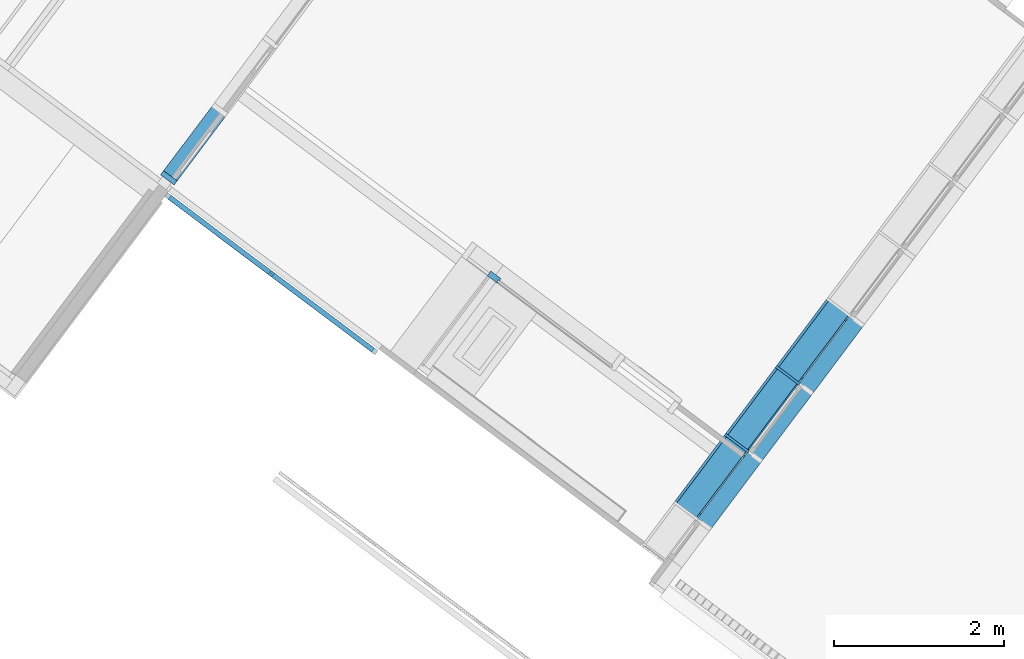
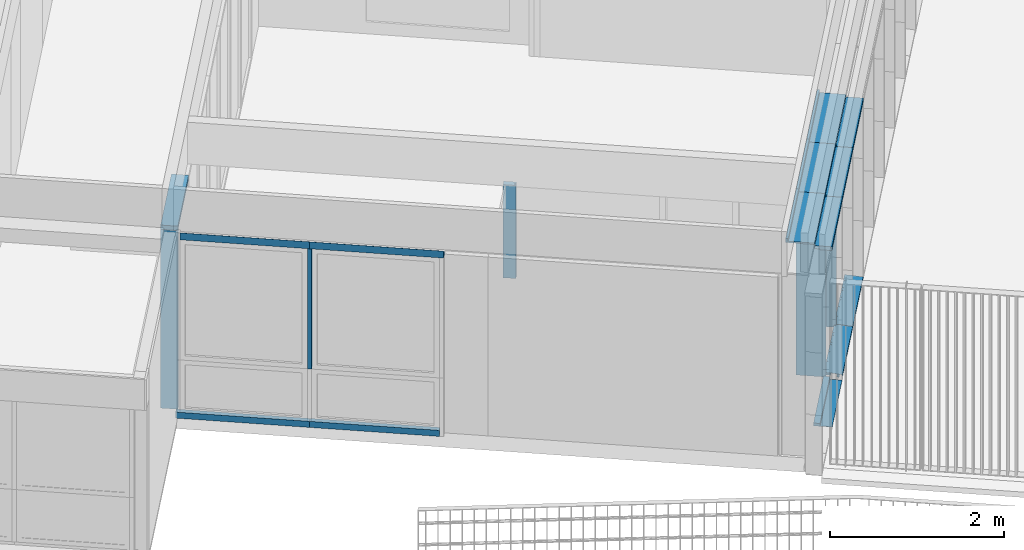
# One storey, part 10 of 243: 19 members, 5 elements without a shape of their own.
"""IFC2X3 building model written with IfcOpenShell, lengths in metres."""

import ifcopenshell
import ifcopenshell.guid

model = None  # the IFC model being written
_history = None  # IfcOwnerHistory: only IFC2X3 demands one
_inside = {}  # id of a spatial element -> (the spatial element, [elements in it])
_under = {}  # id of a project, library or spatial element -> (it, [spatial elements below it])
_declared = {}  # id of a project -> (the project, [libraries it declares])
_typed = {}  # id of a type object -> (the type object, [elements of that type])
_made_of = {}  # id of a material, layer set ... -> (it, [elements and type objects made of it])


def new_model(schema):
    """Start an empty IFC model of exactly this schema.

    Asked for "IFC4X3", IfcOpenShell would pick the latest addendum, in which some entities
    have other attributes; the version numbers below select the first issue.
    IFC2X3 requires an IfcOwnerHistory on every rooted entity: one is made here for all.
    """
    global model, _history
    if schema == "IFC4X3":
        model = ifcopenshell.file(schema_version=(4, 3, 0, 0))
    else:
        model = ifcopenshell.file(schema=schema)
    _inside.clear()
    _under.clear()
    _declared.clear()
    _typed.clear()
    _made_of.clear()
    _history = None
    if model.schema == "IFC2X3":
        org = make("IfcOrganization", Name="unknown")
        user = make(
            "IfcPersonAndOrganization",
            ThePerson=make("IfcPerson", FamilyName="unknown"),
            TheOrganization=org,
        )
        app = make(
            "IfcApplication",
            ApplicationDeveloper=org,
            Version="unknown",
            ApplicationFullName="unknown",
            ApplicationIdentifier="unknown",
        )
        _history = make(
            "IfcOwnerHistory",
            OwningUser=user,
            OwningApplication=app,
            ChangeAction="ADDED",
            CreationDate=0,
        )
    return model


def make(cls, **values):
    """One entity of the class cls with the attributes given. An attribute that is None is left unset."""
    return model.create_entity(
        cls, **{name: value for name, value in values.items() if value is not None}
    )


def entity(cls, *values):
    """Any entity or typed value of the class cls, its attributes in the order of the schema. None: left unset."""
    e = model.create_entity(cls)
    for i, value in enumerate(values):
        if value is not None:
            e[i] = value
    return e


def rooted(cls, **values):
    """An entity with a GlobalId (a new one), such as an element, a storey or a relation."""
    return make(cls, GlobalId=ifcopenshell.guid.new(), OwnerHistory=_history, **values)


def si_unit(unit_type, name, prefix=None):
    """IfcSIUnit, for example si_unit("LENGTHUNIT", "METRE", prefix="MILLI")."""
    return make("IfcSIUnit", UnitType=unit_type, Prefix=prefix, Name=name)


def converted_unit(unit_type, name, factor, base, dimensions=None, offset=None):
    """IfcConversionBasedUnit, such as the inch: factor (a typed value) times the base unit."""
    return make(
        "IfcConversionBasedUnit"
        if offset is None
        else "IfcConversionBasedUnitWithOffset",
        ConversionOffset=offset,
        Dimensions=None
        if dimensions is None
        else entity("IfcDimensionalExponents", *dimensions),
        UnitType=unit_type,
        Name=name,
        ConversionFactor=make(
            "IfcMeasureWithUnit", ValueComponent=factor, UnitComponent=base
        ),
    )


def derived_unit(unit_type, elements):
    """IfcDerivedUnit: a product of units, each with its exponent."""
    return make(
        "IfcDerivedUnit",
        Elements=[
            make("IfcDerivedUnitElement", Unit=unit, Exponent=power)
            for unit, power in elements
        ],
        UnitType=unit_type,
    )


def assignment(units):
    """IfcUnitAssignment: the units of a project."""
    return None if units is None else make("IfcUnitAssignment", Units=units)


def point(xyz):
    """IfcCartesianPoint."""
    return None if xyz is None else make("IfcCartesianPoint", Coordinates=xyz)


def direction(xyz):
    """IfcDirection."""
    return None if xyz is None else make("IfcDirection", DirectionRatios=xyz)


def frame(location, z_axis=None, x_axis=None):
    """IfcAxis2Placement3D, a coordinate frame: its origin and axes. An axis left out is left unset."""
    return make(
        "IfcAxis2Placement3D",
        Location=point(location),
        Axis=direction(z_axis),
        RefDirection=direction(x_axis),
    )


def frame_2d(location, x_axis=None):
    """IfcAxis2Placement2D, a coordinate frame in the plane: its origin and x axis."""
    return make(
        "IfcAxis2Placement2D", Location=point(location), RefDirection=direction(x_axis)
    )


def origin():
    """The frame at (0, 0, 0) with its axes left unset."""
    return frame((0.0, 0.0, 0.0))


def origin_2d_with_axis():
    """The frame at (0, 0) in the plane with the x axis (1, 0) written out."""
    return frame_2d((0.0, 0.0), x_axis=(1.0, 0.0))


def place(relative_to, where):
    """IfcLocalPlacement: puts the frame where relative to a parent placement (None: the world)."""
    return make(
        "IfcLocalPlacement", PlacementRelTo=relative_to, RelativePlacement=where
    )


def context(
    kind, dimensions, precision=None, world=None, true_north=None, identifier=None
):
    """IfcGeometricRepresentationContext, for example the 3D "Model" context."""
    return make(
        "IfcGeometricRepresentationContext",
        ContextIdentifier=identifier,
        ContextType=kind,
        CoordinateSpaceDimension=dimensions,
        Precision=precision,
        WorldCoordinateSystem=world,
        TrueNorth=true_north,
    )


def subcontext(parent, identifier, kind, view, scale=None):
    """IfcGeometricRepresentationSubContext, for example "Body" below "Model"."""
    return make(
        "IfcGeometricRepresentationSubContext",
        ContextIdentifier=identifier,
        ContextType=kind,
        ParentContext=parent,
        TargetScale=scale,
        TargetView=view,
    )


def project(units=None, contexts=None):
    """IfcProject with its units and contexts."""
    return rooted(
        "IfcProject",
        Name="project",
        RepresentationContexts=contexts,
        UnitsInContext=assignment(units),
    )


def spatial(cls, under=None, at=None, **own):
    """A site, building, storey or space (cls), placed at a placement, below another one or the project."""
    s = rooted(cls, ObjectPlacement=at, **own)
    if under is not None:
        _under.setdefault(under.id(), (under, []))[1].append(s)
    return s


def polyline(points):
    """IfcPolyline through the points."""
    return make("IfcPolyline", Points=[point(p) for p in points])


def circle_curve(where, radius):
    """IfcCircle in the frame where."""
    return make("IfcCircle", Position=where, Radius=radius)


def parameter(value):
    """IfcParameterValue: where a trimmed curve begins or ends, as a parameter of its basis curve."""
    return model.create_entity("IfcParameterValue", value)


def trimmed(basis, trim1, trim2, sense, master):
    """IfcTrimmedCurve: the piece of a basis curve between two trims."""
    return make(
        "IfcTrimmedCurve",
        BasisCurve=basis,
        Trim1=trim1,
        Trim2=trim2,
        SenseAgreement=sense,
        MasterRepresentation=master,
    )


def segment(curve, same_sense, transition):
    """IfcCompositeCurveSegment."""
    return make(
        "IfcCompositeCurveSegment",
        Transition=transition,
        SameSense=same_sense,
        ParentCurve=curve,
    )


def composite_curve(segments, self_intersect=None):
    """IfcCompositeCurve: segments joined end to end."""
    return make("IfcCompositeCurve", Segments=segments, SelfIntersect=self_intersect)


def profile(cls, at=None, kind="AREA", **sizes):
    """A parametric profile (cls). Its sizes go by their IFC names, for example OverallWidth=200.0."""
    return make(cls, ProfileType=kind, Position=at, **sizes)


def rectangle(**sizes):
    """IfcRectangleProfileDef."""
    return profile("IfcRectangleProfileDef", **sizes)


def outline(outer, holes=None, kind="AREA"):
    """IfcArbitraryClosedProfileDef: a profile drawn as a closed curve; with holes, ...WithVoids."""
    if holes is None:
        return make("IfcArbitraryClosedProfileDef", ProfileType=kind, OuterCurve=outer)
    return make(
        "IfcArbitraryProfileDefWithVoids",
        ProfileType=kind,
        OuterCurve=outer,
        InnerCurves=holes,
    )


def extrude(swept, where, along, depth):
    """IfcExtrudedAreaSolid: the profile swept, set in the frame where, extruded along a direction by depth."""
    return make(
        "IfcExtrudedAreaSolid",
        SweptArea=swept,
        Position=where,
        ExtrudedDirection=direction(along),
        Depth=depth,
    )


def shape(context_of_items, identifier, shape_type, items):
    """IfcShapeRepresentation: the items that make up one representation, for example the "Body"."""
    return make(
        "IfcShapeRepresentation",
        ContextOfItems=context_of_items,
        RepresentationIdentifier=identifier,
        RepresentationType=shape_type,
        Items=items,
    )


def source(mapping_origin, context_of_items, identifier, shape_type, items):
    """IfcRepresentationMap: a shape defined once, which mapped items show again and again."""
    return make(
        "IfcRepresentationMap",
        MappingOrigin=mapping_origin,
        MappedRepresentation=shape(context_of_items, identifier, shape_type, items),
    )


def transform(
    local_origin,
    x_axis=None,
    y_axis=None,
    z_axis=None,
    scale=None,
    scale2=None,
    scale3=None,
    uniform=True,
):
    """IfcCartesianTransformationOperator3D, or its non-uniform kind. x_axis, y_axis, z_axis: its Axis1, 2, 3."""
    if uniform:
        return make(
            "IfcCartesianTransformationOperator3D",
            Axis1=direction(x_axis),
            Axis2=direction(y_axis),
            LocalOrigin=point(local_origin),
            Scale=scale,
            Axis3=direction(z_axis),
        )
    return make(
        "IfcCartesianTransformationOperator3DnonUniform",
        Axis1=direction(x_axis),
        Axis2=direction(y_axis),
        LocalOrigin=point(local_origin),
        Scale=scale,
        Axis3=direction(z_axis),
        Scale2=scale2,
        Scale3=scale3,
    )


def mapped(mapping_source, mapping_target):
    """IfcMappedItem: shows the shape of a source again, moved by a transform."""
    return make(
        "IfcMappedItem", MappingSource=mapping_source, MappingTarget=mapping_target
    )


def material(Name=None, Category=None):
    """IfcMaterial."""
    return make("IfcMaterial", Name=Name, Category=Category)


def made_of(thing, what):
    """Note that an element or type object is made of a material, layer set ...; save() writes the relation."""
    if what is not None:
        _made_of.setdefault(what.id(), (what, []))[1].append(thing)
    return thing


def type_object(cls, material=None, **own):
    """A type object (cls), such as IfcWallType, which elements share."""
    return made_of(rooted(cls, **own), material)


def type_shapes(of_type, sources):
    """Give a type object the sources (RepresentationMaps) that its elements show as mapped items."""
    of_type.RepresentationMaps = sources


def element(
    cls,
    number,
    at=None,
    inside=None,
    cuts=None,
    type_object=None,
    material=None,
    context=None,
    identifier="Body",
    shape_type=None,
    held_by="IfcProductDefinitionShape",
    body=None,
    shapes=None,
    **own,
):
    """One element of the class cls, such as IfcWall. Its Tag is "e" and its number.

    at: its placement. inside: the storey or other place that contains it. cuts: it is an
    opening in that element (IfcRelVoidsElement). A single representation is given by context,
    identifier, shape_type and body (its items); several are given by shapes. held_by: the class
    of the entity that holds the representations. save() writes the other relations.
    """
    e = rooted(cls, Tag="e%d" % number, ObjectPlacement=at, **own)
    if body is not None:
        shapes = [shape(context, identifier, shape_type, body)]
    if shapes is not None:
        e.Representation = make(held_by, Representations=shapes)
    if inside is not None:
        _inside.setdefault(inside.id(), (inside, []))[1].append(e)
    if cuts is not None:
        rooted(
            "IfcRelVoidsElement", RelatingBuildingElement=cuts, RelatedOpeningElement=e
        )
    if type_object is not None:
        _typed.setdefault(type_object.id(), (type_object, []))[1].append(e)
    return made_of(e, material)


def aggregate(whole, parts):
    """IfcRelAggregates: a whole, such as a stair, and the parts it consists of."""
    return rooted("IfcRelAggregates", RelatingObject=whole, RelatedObjects=parts)


def save(model, path):
    """Write the relations noted so far, then the file.

    IfcRelAggregates (storeys below a building ...), IfcRelContainedInSpatialStructure (elements
    in a storey), IfcRelDefinesByType, IfcRelAssociatesMaterial and IfcRelDeclares: one each for
    every whole, place, type object, material and project.
    """
    for whole, parts in _under.values():
        aggregate(whole, parts)
    for where, things in _inside.values():
        rooted(
            "IfcRelContainedInSpatialStructure",
            RelatedElements=things,
            RelatingStructure=where,
        )
    for kind, things in _typed.values():
        rooted("IfcRelDefinesByType", RelatedObjects=things, RelatingType=kind)
    for what, things in _made_of.values():
        rooted("IfcRelAssociatesMaterial", RelatedObjects=things, RelatingMaterial=what)
    for by, libraries in _declared.values():
        rooted("IfcRelDeclares", RelatingContext=by, RelatedDefinitions=libraries)
    model.write(path)


model = new_model("IFC2X3")

# Units and contexts
model_context = context("Model", 3, precision=1e-05, world=origin(), true_north=direction((6.123031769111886e-17, 1.0)))
body_context = subcontext(model_context, "Body", "Model", "MODEL_VIEW")
ifc_project = project(units=[si_unit("LENGTHUNIT", "METRE"), si_unit("AREAUNIT", "SQUARE_METRE"), si_unit("VOLUMEUNIT", "CUBIC_METRE"), converted_unit("PLANEANGLEUNIT", "DEGREE", entity("IfcRatioMeasure", 0.017453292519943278), si_unit("PLANEANGLEUNIT", "RADIAN"), dimensions=[0, 0, 0, 0, 0, 0, 0]), si_unit("MASSUNIT", "GRAM", prefix="KILO"), derived_unit("MASSDENSITYUNIT", [(si_unit("MASSUNIT", "GRAM", prefix="KILO"), 1), (si_unit("LENGTHUNIT", "METRE"), -3)]), derived_unit("IONCONCENTRATIONUNIT", [(si_unit("MASSUNIT", "GRAM", prefix="KILO"), 1), (si_unit("LENGTHUNIT", "METRE"), -3)]), derived_unit("MOMENTOFINERTIAUNIT", [(si_unit("LENGTHUNIT", "METRE"), 4)]), si_unit("TIMEUNIT", "SECOND"), si_unit("FREQUENCYUNIT", "HERTZ"), si_unit("THERMODYNAMICTEMPERATUREUNIT", "DEGREE_CELSIUS"), derived_unit("THERMALTRANSMITTANCEUNIT", [(si_unit("MASSUNIT", "GRAM", prefix="KILO"), 1), (si_unit("THERMODYNAMICTEMPERATUREUNIT", "KELVIN"), -1), (si_unit("TIMEUNIT", "SECOND"), -3)]), derived_unit("THERMALCONDUCTANCEUNIT", [(si_unit("MASSUNIT", "GRAM", prefix="KILO"), 1), (si_unit("THERMODYNAMICTEMPERATUREUNIT", "KELVIN"), -1), (si_unit("TIMEUNIT", "SECOND"), -3), (si_unit("LENGTHUNIT", "METRE"), 1)]), derived_unit("VOLUMETRICFLOWRATEUNIT", [(si_unit("LENGTHUNIT", "METRE"), 3), (si_unit("TIMEUNIT", "SECOND"), -1)]), derived_unit("MASSFLOWRATEUNIT", [(si_unit("MASSUNIT", "GRAM", prefix="KILO"), 1), (si_unit("TIMEUNIT", "SECOND"), -1)]), derived_unit("ROTATIONALFREQUENCYUNIT", [(si_unit("TIMEUNIT", "SECOND"), -1)]), si_unit("ELECTRICCURRENTUNIT", "AMPERE"), si_unit("ELECTRICVOLTAGEUNIT", "VOLT"), si_unit("POWERUNIT", "WATT"), si_unit("FORCEUNIT", "NEWTON", prefix="KILO"), si_unit("ILLUMINANCEUNIT", "LUX"), si_unit("LUMINOUSFLUXUNIT", "LUMEN"), si_unit("LUMINOUSINTENSITYUNIT", "CANDELA"), derived_unit("USERDEFINED", [(si_unit("MASSUNIT", "GRAM", prefix="KILO"), -1), (si_unit("LENGTHUNIT", "METRE"), -2), (si_unit("TIMEUNIT", "SECOND"), 3), (si_unit("LUMINOUSFLUXUNIT", "LUMEN"), 1)]), derived_unit("USERDEFINED", [(si_unit("MASSUNIT", "GRAM", prefix="KILO"), 1), (si_unit("TIMEUNIT", "SECOND"), -3), (si_unit("LENGTHUNIT", "METRE"), 3), (si_unit("ELECTRICCURRENTUNIT", "AMPERE"), -2)]), derived_unit("SOUNDPOWERUNIT", [(si_unit("MASSUNIT", "GRAM", prefix="KILO"), 1), (si_unit("TIMEUNIT", "SECOND"), -3), (si_unit("LENGTHUNIT", "METRE"), 2)]), derived_unit("SOUNDPRESSUREUNIT", [(si_unit("MASSUNIT", "GRAM", prefix="KILO"), 1), (si_unit("LENGTHUNIT", "METRE"), -1), (si_unit("TIMEUNIT", "SECOND"), -2)]), derived_unit("LINEARVELOCITYUNIT", [(si_unit("LENGTHUNIT", "METRE"), 1), (si_unit("TIMEUNIT", "SECOND"), -1)]), si_unit("PRESSUREUNIT", "PASCAL"), derived_unit("USERDEFINED", [(si_unit("MASSUNIT", "GRAM", prefix="KILO"), 1), (si_unit("LENGTHUNIT", "METRE"), -2), (si_unit("TIMEUNIT", "SECOND"), -2)]), derived_unit("LINEARFORCEUNIT", [(si_unit("MASSUNIT", "GRAM", prefix="KILO"), 1), (si_unit("TIMEUNIT", "SECOND"), -2)]), derived_unit("PLANARFORCEUNIT", [(si_unit("MASSUNIT", "GRAM", prefix="KILO"), 1), (si_unit("LENGTHUNIT", "METRE"), -1), (si_unit("TIMEUNIT", "SECOND"), -2)]), derived_unit("SPECIFICHEATCAPACITYUNIT", [(si_unit("THERMODYNAMICTEMPERATUREUNIT", "KELVIN"), -1), (si_unit("LENGTHUNIT", "METRE"), 2), (si_unit("TIMEUNIT", "SECOND"), -2)]), derived_unit("HEATINGVALUEUNIT", [(si_unit("LENGTHUNIT", "METRE"), 2), (si_unit("TIMEUNIT", "SECOND"), -2)]), derived_unit("VAPORPERMEABILITYUNIT", [(si_unit("LENGTHUNIT", "METRE"), -1), (si_unit("TIMEUNIT", "SECOND"), 1)]), derived_unit("DYNAMICVISCOSITYUNIT", [(si_unit("MASSUNIT", "GRAM", prefix="KILO"), 1), (si_unit("TIMEUNIT", "SECOND"), -1), (si_unit("LENGTHUNIT", "METRE"), -1)]), derived_unit("THERMALEXPANSIONCOEFFICIENTUNIT", [(si_unit("THERMODYNAMICTEMPERATUREUNIT", "KELVIN"), -1)]), derived_unit("MODULUSOFELASTICITYUNIT", [(si_unit("MASSUNIT", "GRAM", prefix="KILO"), 1), (si_unit("LENGTHUNIT", "METRE"), -1), (si_unit("TIMEUNIT", "SECOND"), -2)]), derived_unit("ISOTHERMALMOISTURECAPACITYUNIT", [(si_unit("LENGTHUNIT", "METRE"), 3), (si_unit("MASSUNIT", "GRAM", prefix="KILO"), -1)]), derived_unit("MOISTUREDIFFUSIVITYUNIT", [(si_unit("TIMEUNIT", "SECOND"), -1), (si_unit("LENGTHUNIT", "METRE"), 2)])], contexts=[model_context])

# Site, building, storey
site_placement = place(None, frame((0.0, 0.0, 235.0), z_axis=(0.0, 0.0, 1.0), x_axis=(-0.7996477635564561, 0.6004693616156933, 0.0)))
site = spatial("IfcSite", under=ifc_project, at=site_placement, Name="Default", CompositionType="ELEMENT")
building_placement = place(site_placement, origin())
building = spatial("IfcBuilding", under=site, at=building_placement, CompositionType="ELEMENT")
storey_placement = place(building_placement, origin())
storey = spatial("IfcBuildingStorey", under=building, at=storey_placement, Name="P0- Escola", CompositionType="ELEMENT", Elevation=0.0)

# Curtain wall, members
curtain_wall_type_1 = type_object("IfcCurtainWallType", Name="Muro cortina:MC- INT- a3", PredefinedType="NOTDEFINED")
curtain_wall_1_placement = place(storey_placement, origin())
curtain_wall_1 = element("IfcCurtainWall", 1, at=curtain_wall_1_placement, inside=storey, type_object=curtain_wall_type_1, Name="Muro cortina:MC- INT- a3", ObjectType="Muro cortina:MC- INT- a3")
ifc_material_1 = material(Name="_Fusta massisa- T1")
member_type_1 = type_object("IfcMemberType", Name="Montante rectangular:MC- Fusta- 20x6 cm- Neutre", PredefinedType="MULLION", material=ifc_material_1)
shared_shape_1 = source(origin(), body_context, "Body", "SweptSolid", [
    extrude(rectangle(XDim=0.2, YDim=0.06, at=frame_2d((-5.551115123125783e-17, 0.0), x_axis=(1.0, 0.0))), frame((-0.03, 0.060000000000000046, -2.5050000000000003), z_axis=(0.0, 0.0, 1.0), x_axis=(0.0, -1.0, 0.0)), (0.0, 0.0, 1.0), 2.5050000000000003),
])
type_shapes(member_type_1, [shared_shape_1])
member_1_placement = place(curtain_wall_1_placement, frame((13.279147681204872, -18.440191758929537, 0.0), z_axis=(0.0, 0.0, -1.0), x_axis=(0.0, 1.0, 0.0)))
member_1 = element("IfcMember", 2, at=member_1_placement, type_object=member_type_1, material=ifc_material_1, Name="Montante rectangular:MC- Fusta- 20x6 cm- Neutre", ObjectType="Montante rectangular:MC- Fusta- 20x6 cm- Neutre", context=body_context, shape_type="MappedRepresentation", body=[
    mapped(shared_shape_1, transform((0.0, 0.0, 0.0), scale=1.0)),
])
member_type_2 = type_object("IfcMemberType", Name="Montante rectangular:MC- Fusta- 20x6 cm- Neutre", PredefinedType="MULLION", material=ifc_material_1)
shared_shape_2 = source(origin(), body_context, "Body", "SweptSolid", [
    extrude(rectangle(XDim=0.20000000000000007, YDim=0.06, at=frame_2d((-5.551115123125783e-17, 0.0), x_axis=(1.0, 0.0))), frame((-0.03, 0.06000000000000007, -1.030000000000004), z_axis=(0.0, 0.0, 1.0), x_axis=(0.0, -1.0, 0.0)), (0.0, 0.0, 1.0), 1.030000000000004),
])
type_shapes(member_type_2, [shared_shape_2])
member_2_placement = place(curtain_wall_1_placement, frame((13.279147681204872, -18.440191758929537, 2.565), z_axis=(0.0, 1.0, 0.0), x_axis=(0.0, 0.0, 1.0)))
member_2 = element("IfcMember", 3, at=member_2_placement, type_object=member_type_2, material=ifc_material_1, Name="Montante rectangular:MC- Fusta- 20x6 cm- Neutre", ObjectType="Montante rectangular:MC- Fusta- 20x6 cm- Neutre", context=body_context, shape_type="MappedRepresentation", body=[
    mapped(shared_shape_2, transform((0.0, 0.0, 0.0), scale=1.0)),
])
aggregate(curtain_wall_1, [member_1, member_2])

# Curtain wall, member
curtain_wall_type_2 = type_object("IfcCurtainWallType", Name="Muro cortina:MC- INT- k1", PredefinedType="NOTDEFINED")
curtain_wall_2_placement = place(storey_placement, origin())
curtain_wall_2 = element("IfcCurtainWall", 4, at=curtain_wall_2_placement, inside=storey, type_object=curtain_wall_type_2, Name="Muro cortina:MC- INT- k1", ObjectType="Muro cortina:MC- INT- k1")
member_type_3 = type_object("IfcMemberType", Name="Montante rectangular:PerfilBany-Dreta", PredefinedType="MULLION", material=ifc_material_1)
shared_shape_3 = source(origin(), body_context, "Body", "SweptSolid", [
    extrude(outline(polyline([(-0.03050000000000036, -0.1075), (0.0394999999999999, -0.1075), (0.0394999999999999, 0.04250000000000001), (0.0055000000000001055, 0.04250000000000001), (0.0055000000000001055, 0.022500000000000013), (-0.014499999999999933, 0.022500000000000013), (-0.014499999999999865, 0.04249999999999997), (-0.030499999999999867, 0.04249999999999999), (-0.03050000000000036, -0.1075)])), frame((0.03250000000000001, -0.0045000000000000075, -1.304999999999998), z_axis=(0.0, 0.0, 1.0), x_axis=(0.0, -1.0, 0.0)), (0.0, 0.0, 1.0), 1.304999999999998),
])
type_shapes(member_type_3, [shared_shape_3])
member_3_placement = place(curtain_wall_2_placement, frame((9.570147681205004, -19.82719175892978, 1.2000000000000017), z_axis=(0.0, 0.0, -1.0), x_axis=(-1.0, 0.0, 0.0)))
member_3 = element("IfcMember", 5, at=member_3_placement, type_object=member_type_3, material=ifc_material_1, Name="Montante rectangular:PerfilBany-Dreta", ObjectType="Montante rectangular:PerfilBany-Dreta", context=body_context, shape_type="MappedRepresentation", body=[
    mapped(shared_shape_3, transform((0.0, 0.0, 0.0), scale=1.0)),
])
aggregate(curtain_wall_2, [member_3])

# Curtain wall, members
curtain_wall_type_3 = type_object("IfcCurtainWallType", Name="Muro cortina:MC- EXT- MC2", PredefinedType="NOTDEFINED")
curtain_wall_3_placement = place(storey_placement, origin())
curtain_wall_3 = element("IfcCurtainWall", 6, at=curtain_wall_3_placement, inside=storey, type_object=curtain_wall_type_3, Name="Muro cortina:MC- EXT- MC2", ObjectType="Muro cortina:MC- EXT- MC2")
ifc_material_2 = material(Name="_Alumini- T1- Perfil")
member_type_4 = type_object("IfcMemberType", Name="Montante rectangular:MC- Alu- 140x52,5 cm- Fa patis- Superior", PredefinedType="MULLION", material=ifc_material_2)
shared_shape_4 = source(origin(), body_context, "Body", "SweptSolid", [
    extrude(outline(polyline([(-0.11366666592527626, -0.021249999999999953), (0.026333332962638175, -0.021249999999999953), (0.026333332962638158, -0.010000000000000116), (0.0873333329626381, -0.010000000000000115), (0.0873333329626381, 0.03125000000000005), (-0.11366666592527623, 0.031250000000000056), (-0.11366666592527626, -0.021249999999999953)])), frame((-0.031250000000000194, 0.0273333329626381, -1.0), z_axis=(0.0, 0.0, 1.0), x_axis=(0.0, -1.0, 0.0)), (0.0, 0.0, 1.0), 1.0000000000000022),
])
type_shapes(member_type_4, [shared_shape_4])
member_4_placement = place(curtain_wall_3_placement, frame((5.8851476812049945, -19.9901917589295, 2.525), z_axis=(0.0, -1.0, 0.0), x_axis=(0.0, 0.0, 1.0)))
member_4 = element("IfcMember", 7, at=member_4_placement, type_object=member_type_4, material=ifc_material_2, Name="Montante rectangular:MC- Alu- 140x52,5 cm- Fa patis- Superior", ObjectType="Montante rectangular:MC- Alu- 140x52,5 cm- Fa patis- Superior", context=body_context, shape_type="MappedRepresentation", body=[
    mapped(shared_shape_4, transform((0.0, 0.0, 0.0), scale=1.0)),
])
member_5_placement = place(curtain_wall_3_placement, frame((5.885147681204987, -20.99019175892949, 2.525), z_axis=(0.0, -1.0, 0.0), x_axis=(0.0, 0.0, 1.0)))
member_5 = element("IfcMember", 8, at=member_5_placement, type_object=member_type_4, material=ifc_material_2, Name="Montante rectangular:MC- Alu- 140x52,5 cm- Fa patis- Superior", ObjectType="Montante rectangular:MC- Alu- 140x52,5 cm- Fa patis- Superior", context=body_context, shape_type="MappedRepresentation", body=[
    mapped(shared_shape_4, transform((0.0, 0.0, 0.0), scale=1.0)),
])
member_6_placement = place(curtain_wall_3_placement, frame((5.885147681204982, -21.9901917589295, 2.525), z_axis=(0.0, -1.0, 0.0), x_axis=(0.0, 0.0, 1.0)))
member_6 = element("IfcMember", 9, at=member_6_placement, type_object=member_type_4, material=ifc_material_2, Name="Montante rectangular:MC- Alu- 140x52,5 cm- Fa patis- Superior", ObjectType="Montante rectangular:MC- Alu- 140x52,5 cm- Fa patis- Superior", context=body_context, shape_type="MappedRepresentation", body=[
    mapped(shared_shape_4, transform((0.0, 0.0, 0.0), scale=1.0)),
])
member_type_5 = type_object("IfcMemberType", Name="Montante rectangular:MC- Alu- 140x52,5 cm- Fa patis- inferior porta reixa", PredefinedType="MULLION", material=ifc_material_2)
shared_shape_5 = source(origin(), body_context, "Body", "SweptSolid", [
    extrude(outline(polyline([(0.021233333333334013, -0.026000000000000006), (0.097533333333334, -0.026000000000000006), (0.097533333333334, 0.013999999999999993), (-0.118766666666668, 0.013999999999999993), (-0.118766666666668, 0.012000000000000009), (0.02123333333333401, 0.012000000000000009), (0.021233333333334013, -0.026000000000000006)])), frame((-0.01400000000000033, 0.021233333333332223, -0.9474999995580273), z_axis=(0.0, 0.0, 1.0), x_axis=(0.0, -1.0, 0.0)), (0.0, 0.0, 1.0), 0.9474999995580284),
])
type_shapes(member_type_5, [shared_shape_5])
member_7_placement = place(curtain_wall_3_placement, frame((5.885147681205, -19.01644175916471, -0.02), z_axis=(0.0, 1.0, 0.0), x_axis=(0.0, 0.0, -1.0)))
member_7 = element("IfcMember", 10, at=member_7_placement, type_object=member_type_5, material=ifc_material_2, Name="Montante rectangular:MC- Alu- 140x52,5 cm- Fa patis- inferior porta reixa", ObjectType="Montante rectangular:MC- Alu- 140x52,5 cm- Fa patis- inferior porta reixa", context=body_context, shape_type="MappedRepresentation", body=[
    mapped(shared_shape_5, transform((0.0, 0.0, 0.0), scale=1.0)),
])
member_type_6 = type_object("IfcMemberType", Name="Montante rectangular:MC- Alu- 140x52,5 cm- Fa patis- inferior", PredefinedType="MULLION", material=ifc_material_2)
shared_shape_6 = source(origin(), body_context, "Body", "SweptSolid", [
    extrude(outline(composite_curve([segment(polyline([(0.1278672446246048, -0.02586710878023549), (0.14416724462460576, -0.025867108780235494)]), True, "CONTINUOUS"), segment(polyline([(0.14416724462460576, -0.025867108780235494), (0.1441672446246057, 0.009132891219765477)]), True, "CONTINUOUS"), segment(polyline([(0.1441672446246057, 0.009132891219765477), (0.06786724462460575, 0.009132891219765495)]), True, "CONTINUOUS"), segment(polyline([(0.06786724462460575, 0.009132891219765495), (0.06786724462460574, -0.021159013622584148)]), True, "CONTINUOUS"), segment(polyline([(0.06786724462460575, -0.02115901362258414), (-0.030132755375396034, -0.012332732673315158)]), True, "CONTINUOUS"), segment(polyline([(-0.03013275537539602, -0.012332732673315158), (-0.030132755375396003, 0.027132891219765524)]), True, "CONTINUOUS"), segment(polyline([(-0.030132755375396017, 0.02713289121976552), (-0.0021327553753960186, 0.02713289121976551)]), True, "CONTINUOUS"), segment(polyline([(-0.0021327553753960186, 0.027132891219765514), (-0.0021327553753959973, 0.029132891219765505)]), True, "CONTINUOUS"), segment(polyline([(-0.0021327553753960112, 0.029132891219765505), (-0.032132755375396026, 0.029132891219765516)]), True, "CONTINUOUS"), segment(polyline([(-0.032132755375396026, 0.029132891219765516), (-0.03213275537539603, -0.012152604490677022)]), True, "CONTINUOUS"), segment(polyline([(-0.03213275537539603, -0.012152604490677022), (-0.0701327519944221, -0.008730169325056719)]), True, "CONTINUOUS"), segment(polyline([(-0.0701327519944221, -0.008730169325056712), (-0.0701327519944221, 0.005766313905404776)]), True, "CONTINUOUS"), segment(trimmed(circle_curve(frame_2d((-0.0696327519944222, 0.0057663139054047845), x_axis=(-1.0, 0.0)), 0.0004999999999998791), [parameter(269.999999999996)], [parameter(0.0)], True, "PARAMETER"), False, "CONTINUOUS"), segment(polyline([(-0.0696327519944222, 0.00626631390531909), (-0.06213275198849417, 0.006266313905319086)]), True, "CONTINUOUS"), segment(polyline([(-0.06213275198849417, 0.006266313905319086), (-0.06213275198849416, 0.008266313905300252)]), True, "CONTINUOUS"), segment(polyline([(-0.06213275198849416, 0.008266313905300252), (-0.07013275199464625, 0.008266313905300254)]), True, "CONTINUOUS"), segment(trimmed(circle_curve(frame_2d((-0.07013275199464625, 0.006266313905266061), x_axis=(0.0, 1.0)), 0.0020000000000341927), [parameter(0.0)], [parameter(90.00000002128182)], True, "PARAMETER"), True, "CONTINUOUS"), segment(polyline([(-0.07213275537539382, 0.006266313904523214), (-0.07213275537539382, -0.008730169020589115)]), True, "CONTINUOUS"), segment(trimmed(circle_curve(frame_2d((-0.07013275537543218, -0.008730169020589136), x_axis=(-1.0, 0.0)), 0.0019999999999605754), [parameter(0.0)], [parameter(84.85359280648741)], True, "PARAMETER"), True, "CONTINUOUS"), segment(polyline([(-0.07031215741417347, -0.01072210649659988), (0.06786724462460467, -0.023167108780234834)]), True, "CONTINUOUS"), segment(polyline([(0.06786724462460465, -0.023167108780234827), (0.12786724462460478, -0.023167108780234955)]), True, "CONTINUOUS"), segment(polyline([(0.12786724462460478, -0.023167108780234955), (0.1278672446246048, -0.02586710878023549)]), True, "CONTINUOUS")], self_intersect=False)), frame((-0.029132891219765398, 0.06786724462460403, -0.9737499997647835), z_axis=(0.0, 0.0, 1.0), x_axis=(0.0, -1.0, 0.0)), (0.0, 0.0, 1.0), 0.9737499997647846),
])
type_shapes(member_type_6, [shared_shape_6])
member_8_placement = place(curtain_wall_3_placement, frame((5.8851476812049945, -20.016441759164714, -0.02), z_axis=(0.0, 1.0, 0.0), x_axis=(0.0, 0.0, -1.0)))
member_8 = element("IfcMember", 11, at=member_8_placement, type_object=member_type_6, material=ifc_material_2, Name="Montante rectangular:MC- Alu- 140x52,5 cm- Fa patis- inferior", ObjectType="Montante rectangular:MC- Alu- 140x52,5 cm- Fa patis- inferior", context=body_context, shape_type="MappedRepresentation", body=[
    mapped(shared_shape_6, transform((0.0, 0.0, 0.0), scale=1.0)),
])
member_type_7 = type_object("IfcMemberType", Name="Montante rectangular:MC- Alu- 140x52,5 cm- Fa patis- inferior", PredefinedType="MULLION", material=ifc_material_2)
shared_shape_7 = source(origin(), body_context, "Body", "SweptSolid", [
    extrude(outline(composite_curve([segment(polyline([(0.12786724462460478, -0.02586710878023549), (0.14416724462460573, -0.025867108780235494)]), True, "CONTINUOUS"), segment(polyline([(0.14416724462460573, -0.025867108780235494), (0.14416724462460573, 0.009132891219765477)]), True, "CONTINUOUS"), segment(polyline([(0.14416724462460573, 0.009132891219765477), (0.06786724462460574, 0.009132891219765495)]), True, "CONTINUOUS"), segment(polyline([(0.06786724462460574, 0.009132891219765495), (0.06786724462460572, -0.021159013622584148)]), True, "CONTINUOUS"), segment(polyline([(0.06786724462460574, -0.02115901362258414), (-0.030132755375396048, -0.012332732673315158)]), True, "CONTINUOUS"), segment(polyline([(-0.030132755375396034, -0.012332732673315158), (-0.030132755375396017, 0.027132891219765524)]), True, "CONTINUOUS"), segment(polyline([(-0.03013275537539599, 0.02713289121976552), (-0.0021327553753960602, 0.02713289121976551)]), True, "CONTINUOUS"), segment(polyline([(-0.0021327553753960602, 0.027132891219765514), (-0.002132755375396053, 0.029132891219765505)]), True, "CONTINUOUS"), segment(polyline([(-0.002132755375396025, 0.029132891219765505), (-0.03213275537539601, 0.029132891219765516)]), True, "CONTINUOUS"), segment(polyline([(-0.03213275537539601, 0.029132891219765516), (-0.03213275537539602, -0.012152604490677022)]), True, "CONTINUOUS"), segment(polyline([(-0.03213275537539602, -0.012152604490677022), (-0.07013275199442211, -0.008730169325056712)]), True, "CONTINUOUS"), segment(polyline([(-0.07013275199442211, -0.008730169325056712), (-0.07013275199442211, 0.005766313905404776)]), True, "CONTINUOUS"), segment(trimmed(circle_curve(frame_2d((-0.06963275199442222, 0.005766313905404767), x_axis=(-1.0, 0.0)), 0.0004999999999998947), [parameter(270.0000000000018)], [parameter(0.0)], True, "PARAMETER"), False, "CONTINUOUS"), segment(polyline([(-0.06963275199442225, 0.00626631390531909), (-0.06213275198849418, 0.006266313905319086)]), True, "CONTINUOUS"), segment(polyline([(-0.06213275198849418, 0.006266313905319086), (-0.062132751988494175, 0.008266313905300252)]), True, "CONTINUOUS"), segment(polyline([(-0.062132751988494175, 0.008266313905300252), (-0.07013275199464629, 0.008266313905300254)]), True, "CONTINUOUS"), segment(trimmed(circle_curve(frame_2d((-0.07013275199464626, 0.006266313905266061), x_axis=(0.0, 1.0)), 0.0020000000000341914), [parameter(0.0)], [parameter(90.00000002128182)], True, "PARAMETER"), True, "CONTINUOUS"), segment(polyline([(-0.07213275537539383, 0.006266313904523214), (-0.07213275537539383, -0.008730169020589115)]), True, "CONTINUOUS"), segment(trimmed(circle_curve(frame_2d((-0.07013275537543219, -0.008730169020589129), x_axis=(-1.0, 0.0)), 0.001999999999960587), [parameter(0.0)], [parameter(84.85359280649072)], True, "PARAMETER"), True, "CONTINUOUS"), segment(polyline([(-0.07031215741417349, -0.01072210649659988), (0.06786724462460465, -0.023167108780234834)]), True, "CONTINUOUS"), segment(polyline([(0.06786724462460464, -0.023167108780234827), (0.12786724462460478, -0.023167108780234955)]), True, "CONTINUOUS"), segment(polyline([(0.12786724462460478, -0.023167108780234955), (0.12786724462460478, -0.02586710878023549)]), True, "CONTINUOUS")], self_intersect=False)), frame((-0.029132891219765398, 0.06786724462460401, -1.0), z_axis=(0.0, 0.0, 1.0), x_axis=(0.0, -1.0, 0.0)), (0.0, 0.0, 1.0), 1.0000000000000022),
])
type_shapes(member_type_7, [shared_shape_7])
member_9_placement = place(curtain_wall_3_placement, frame((5.885147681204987, -20.990191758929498, -0.02), z_axis=(0.0, 1.0, 0.0), x_axis=(0.0, 0.0, -1.0)))
member_9 = element("IfcMember", 12, at=member_9_placement, type_object=member_type_7, material=ifc_material_2, Name="Montante rectangular:MC- Alu- 140x52,5 cm- Fa patis- inferior", ObjectType="Montante rectangular:MC- Alu- 140x52,5 cm- Fa patis- inferior", context=body_context, shape_type="MappedRepresentation", body=[
    mapped(shared_shape_7, transform((0.0, 0.0, 0.0), scale=1.0)),
])
aggregate(curtain_wall_3, [member_4, member_5, member_6, member_7, member_8, member_9])

curtain_wall_type_4 = type_object("IfcCurtainWallType", Name="Muro cortina:MC- INT- k7- Aules infantil", PredefinedType="NOTDEFINED")
curtain_wall_4_placement = place(storey_placement, origin())
curtain_wall_4 = element("IfcCurtainWall", 13, at=curtain_wall_4_placement, inside=storey, type_object=curtain_wall_type_4, Name="Muro cortina:MC- INT- k7- Aules infantil", ObjectType="Muro cortina:MC- INT- k7- Aules infantil")
member_type_8 = type_object("IfcMemberType", Name="Montante rectangular:MC- Fusta- 35x3 cm- Pati aules- Remat superior", PredefinedType="MULLION", material=ifc_material_1)
shared_shape_8 = source(origin(), body_context, "Body", "SweptSolid", [
    extrude(outline(polyline([(-0.2133333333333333, -0.02666666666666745), (0.12166666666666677, -0.02666666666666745), (0.1216666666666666, 0.03333333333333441), (0.09166666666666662, 0.03333333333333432), (0.0916666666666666, -0.006666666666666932), (-0.21333333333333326, -0.006666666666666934), (-0.2133333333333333, -0.02666666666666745)])), frame((-0.033333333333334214, 0.026666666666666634, -1.0), z_axis=(0.0, 0.0, 1.0), x_axis=(0.0, -1.0, 0.0)), (0.0, 0.0, 1.0), 0.9999999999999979),
])
type_shapes(member_type_8, [shared_shape_8])
member_10_placement = place(curtain_wall_4_placement, frame((6.1851476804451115, -21.990191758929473, 2.6), z_axis=(0.0, -1.0, 0.0), x_axis=(0.0, 0.0, 1.0)))
member_10 = element("IfcMember", 14, at=member_10_placement, type_object=member_type_8, material=ifc_material_1, Name="Montante rectangular:MC- Fusta- 35x3 cm- Pati aules- Remat superior", ObjectType="Montante rectangular:MC- Fusta- 35x3 cm- Pati aules- Remat superior", context=body_context, shape_type="MappedRepresentation", body=[
    mapped(shared_shape_8, transform((0.0, 0.0, 0.0), scale=1.0)),
])
member_11_placement = place(curtain_wall_4_placement, frame((6.185147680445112, -20.990191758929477, 2.6), z_axis=(0.0, -1.0, 0.0), x_axis=(0.0, 0.0, 1.0)))
member_11 = element("IfcMember", 15, at=member_11_placement, type_object=member_type_8, material=ifc_material_1, Name="Montante rectangular:MC- Fusta- 35x3 cm- Pati aules- Remat superior", ObjectType="Montante rectangular:MC- Fusta- 35x3 cm- Pati aules- Remat superior", context=body_context, shape_type="MappedRepresentation", body=[
    mapped(shared_shape_8, transform((0.0, 0.0, 0.0), scale=1.0)),
])
member_12_placement = place(curtain_wall_4_placement, frame((6.185147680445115, -19.990191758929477, 2.6), z_axis=(0.0, -1.0, 0.0), x_axis=(0.0, 0.0, 1.0)))
member_12 = element("IfcMember", 16, at=member_12_placement, type_object=member_type_8, material=ifc_material_1, Name="Montante rectangular:MC- Fusta- 35x3 cm- Pati aules- Remat superior", ObjectType="Montante rectangular:MC- Fusta- 35x3 cm- Pati aules- Remat superior", context=body_context, shape_type="MappedRepresentation", body=[
    mapped(shared_shape_8, transform((0.0, 0.0, 0.0), scale=1.0)),
])
member_type_9 = type_object("IfcMemberType", Name="Montante rectangular:MC- Fusta- 35x3 cm- Centre", PredefinedType="MULLION", material=ifc_material_1)
shared_shape_9 = source(origin(), body_context, "Body", "SweptSolid", [
    extrude(rectangle(XDim=0.3450000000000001, YDim=0.030000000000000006, at=frame_2d((0.0, 1.3964523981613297e-16), x_axis=(1.0, 0.0))), frame((0.0, 0.07750000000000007, -2.5399999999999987), z_axis=(0.0, 0.0, 1.0), x_axis=(0.0, -1.0, 0.0)), (0.0, 0.0, 1.0), 2.5399999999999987),
])
type_shapes(member_type_9, [shared_shape_9])
member_13_placement = place(curtain_wall_4_placement, frame((6.185147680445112, -20.990191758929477, 0.0), z_axis=(0.0, 0.0, -1.0), x_axis=(0.0, -1.0, 0.0)))
member_13 = element("IfcMember", 17, at=member_13_placement, type_object=member_type_9, material=ifc_material_1, Name="Montante rectangular:MC- Fusta- 35x3 cm- Centre", ObjectType="Montante rectangular:MC- Fusta- 35x3 cm- Centre", context=body_context, shape_type="MappedRepresentation", body=[
    mapped(shared_shape_9, transform((0.0, 0.0, 0.0), scale=1.0)),
])
member_14_placement = place(curtain_wall_4_placement, frame((6.185147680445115, -19.990191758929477, 0.0), z_axis=(0.0, 0.0, -1.0), x_axis=(0.0, -1.0, 0.0)))
member_14 = element("IfcMember", 18, at=member_14_placement, type_object=member_type_9, material=ifc_material_1, Name="Montante rectangular:MC- Fusta- 35x3 cm- Centre", ObjectType="Montante rectangular:MC- Fusta- 35x3 cm- Centre", context=body_context, shape_type="MappedRepresentation", body=[
    mapped(shared_shape_9, transform((0.0, 0.0, 0.0), scale=1.0)),
])
aggregate(curtain_wall_4, [member_10, member_11, member_13, member_12, member_14])

curtain_wall_type_5 = type_object("IfcCurtainWallType", Name="Muro cortina:MC- EXT- AL3", PredefinedType="NOTDEFINED")
curtain_wall_5_placement = place(storey_placement, origin())
curtain_wall_5 = element("IfcCurtainWall", 19, at=curtain_wall_5_placement, inside=storey, type_object=curtain_wall_type_5, Name="Muro cortina:MC- EXT- AL3", ObjectType="Muro cortina:MC- EXT- AL3")
member_type_10 = type_object("IfcMemberType", Name="Montante rectangular:MC- Alu- 140x52,5 cm- Fa pista- Superior", PredefinedType="MULLION", material=ifc_material_2)
shared_shape_10 = source(origin(), body_context, "Body", "SweptSolid", [
    extrude(outline(polyline([(-0.03933333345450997, -0.04916666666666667), (0.02066666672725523, -0.04916666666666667), (0.020666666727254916, 0.048333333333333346), (0.018666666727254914, 0.04833333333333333), (0.018666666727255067, 0.00083333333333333), (-0.03933333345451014, 0.00083333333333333), (-0.03933333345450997, -0.04916666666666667)])), frame((-0.048333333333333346, -0.03933333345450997, -1.4999999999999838), z_axis=(0.0, 0.0, 1.0), x_axis=(0.0, -1.0, 0.0)), (0.0, 0.0, 1.0), 1.4999999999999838),
])
type_shapes(member_type_10, [shared_shape_10])
member_15_placement = place(curtain_wall_5_placement, frame((13.195147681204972, -18.321991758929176, 2.6000000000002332), z_axis=(1.0, 0.0, 0.0), x_axis=(0.0, 0.0, 1.0)))
member_15 = element("IfcMember", 20, at=member_15_placement, type_object=member_type_10, material=ifc_material_2, Name="Montante rectangular:MC- Alu- 140x52,5 cm- Fa pista- Superior", ObjectType="Montante rectangular:MC- Alu- 140x52,5 cm- Fa pista- Superior", context=body_context, shape_type="MappedRepresentation", body=[
    mapped(shared_shape_10, transform((0.0, 0.0, 0.0), scale=1.0)),
])
member_type_11 = type_object("IfcMemberType", Name="Montante rectangular:MC- Alu- 52x80 cm- Fa pista- inferior", PredefinedType="MULLION", material=ifc_material_2)
shared_shape_11 = source(origin(), body_context, "Body", "SweptSolid", [
    extrude(rectangle(XDim=0.06000000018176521, YDim=0.085, at=origin_2d_with_axis()), frame((-0.0425, -0.030000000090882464, -1.4999999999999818), z_axis=(0.0, 0.0, 1.0), x_axis=(0.0, -1.0, 0.0)), (0.0, 0.0, 1.0), 1.4999999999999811),
])
type_shapes(member_type_11, [shared_shape_11])
member_16_placement = place(curtain_wall_5_placement, frame((10.195147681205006, -18.321991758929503, 0.0), z_axis=(-1.0, 0.0, 0.0), x_axis=(0.0, 0.0, -1.0)))
member_16 = element("IfcMember", 21, at=member_16_placement, type_object=member_type_11, material=ifc_material_2, Name="Montante rectangular:MC- Alu- 52x80 cm- Fa pista- inferior", ObjectType="Montante rectangular:MC- Alu- 52x80 cm- Fa pista- inferior", context=body_context, shape_type="MappedRepresentation", body=[
    mapped(shared_shape_11, transform((0.0, 0.0, 0.0), scale=1.0)),
])
member_type_12 = type_object("IfcMemberType", Name="Montante rectangular:MC- Alu- 140x52,5 cm- Fa pista- Superior", PredefinedType="MULLION", material=ifc_material_2)
shared_shape_12 = source(origin(), body_context, "Body", "SweptSolid", [
    extrude(outline(polyline([(-0.03933333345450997, -0.04916666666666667), (0.02066666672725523, -0.04916666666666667), (0.020666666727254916, 0.048333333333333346), (0.018666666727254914, 0.04833333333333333), (0.018666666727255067, 0.00083333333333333), (-0.03933333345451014, 0.00083333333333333), (-0.03933333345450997, -0.04916666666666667)])), frame((-0.048333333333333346, -0.03933333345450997, -1.5499999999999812), z_axis=(0.0, 0.0, 1.0), x_axis=(0.0, -1.0, 0.0)), (0.0, 0.0, 1.0), 1.5499999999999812),
])
type_shapes(member_type_12, [shared_shape_12])
member_17_placement = place(curtain_wall_5_placement, frame((11.695147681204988, -18.32199175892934, 2.6000000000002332), z_axis=(1.0, 0.0, 0.0), x_axis=(0.0, 0.0, 1.0)))
member_17 = element("IfcMember", 22, at=member_17_placement, type_object=member_type_12, material=ifc_material_2, Name="Montante rectangular:MC- Alu- 140x52,5 cm- Fa pista- Superior", ObjectType="Montante rectangular:MC- Alu- 140x52,5 cm- Fa pista- Superior", context=body_context, shape_type="MappedRepresentation", body=[
    mapped(shared_shape_12, transform((0.0, 0.0, 0.0), scale=1.0)),
])
member_type_13 = type_object("IfcMemberType", Name="Montante rectangular:MC- Alu- 52x80 cm- Fa pista- inferior", PredefinedType="MULLION", material=ifc_material_2)
shared_shape_13 = source(origin(), body_context, "Body", "SweptSolid", [
    extrude(rectangle(XDim=0.06000000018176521, YDim=0.085, at=origin_2d_with_axis()), frame((-0.0425, -0.030000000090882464, -1.5499999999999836), z_axis=(0.0, 0.0, 1.0), x_axis=(0.0, -1.0, 0.0)), (0.0, 0.0, 1.0), 1.5499999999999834),
])
type_shapes(member_type_13, [shared_shape_13])
member_18_placement = place(curtain_wall_5_placement, frame((11.695147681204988, -18.32199175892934, 0.0), z_axis=(-1.0, 0.0, 0.0), x_axis=(0.0, 0.0, -1.0)))
member_18 = element("IfcMember", 23, at=member_18_placement, type_object=member_type_13, material=ifc_material_2, Name="Montante rectangular:MC- Alu- 52x80 cm- Fa pista- inferior", ObjectType="Montante rectangular:MC- Alu- 52x80 cm- Fa pista- inferior", context=body_context, shape_type="MappedRepresentation", body=[
    mapped(shared_shape_13, transform((0.0, 0.0, 0.0), scale=1.0)),
])
member_type_14 = type_object("IfcMemberType", Name="Montante rectangular:MC- Alu- 50x60 cm- Fa pista- Centre", PredefinedType="MULLION", material=ifc_material_2)
shared_shape_14 = source(origin(), body_context, "Body", "SweptSolid", [
    extrude(rectangle(XDim=0.0600000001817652, YDim=0.05, at=frame_2d((8.673617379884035e-18, 0.0), x_axis=(1.0, 0.0))), frame((0.0, -0.030000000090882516, -1.6825000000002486), z_axis=(0.0, 0.0, 1.0), x_axis=(0.0, -1.0, 0.0)), (0.0, 0.0, 1.0), 1.6825000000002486),
])
type_shapes(member_type_14, [shared_shape_14])
member_19_placement = place(curtain_wall_5_placement, frame((11.695147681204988, -18.32199175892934, 0.8199999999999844), z_axis=(0.0, 0.0, -1.0), x_axis=(1.0, 0.0, 0.0)))
member_19 = element("IfcMember", 24, at=member_19_placement, type_object=member_type_14, material=ifc_material_2, Name="Montante rectangular:MC- Alu- 50x60 cm- Fa pista- Centre", ObjectType="Montante rectangular:MC- Alu- 50x60 cm- Fa pista- Centre", context=body_context, shape_type="MappedRepresentation", body=[
    mapped(shared_shape_14, transform((0.0, 0.0, 0.0), scale=1.0)),
])
aggregate(curtain_wall_5, [member_15, member_16, member_17, member_18, member_19])

save(model, "model.ifc")
